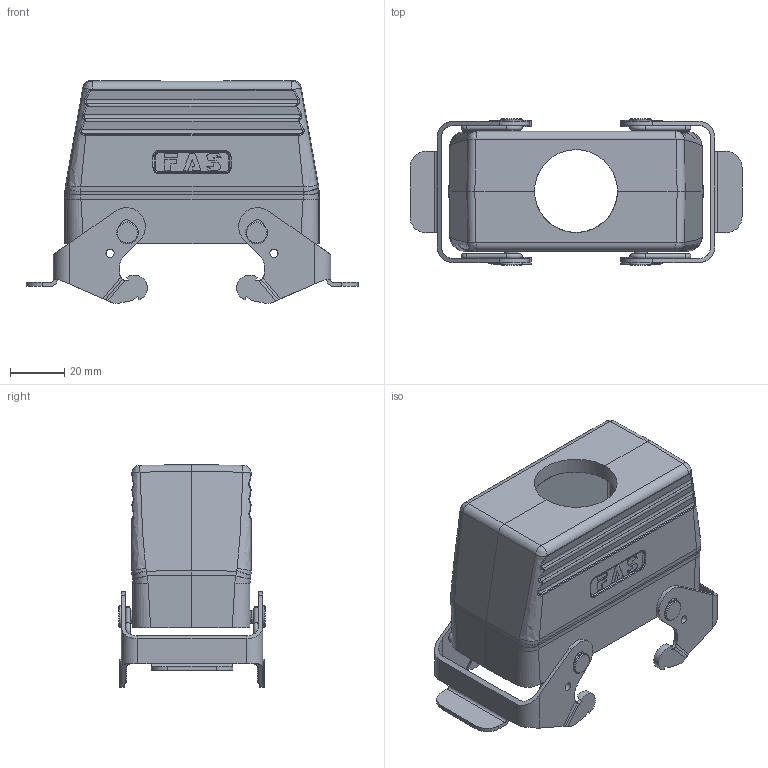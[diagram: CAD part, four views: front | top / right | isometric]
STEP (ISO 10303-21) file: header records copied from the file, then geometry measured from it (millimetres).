
FILE_DESCRIPTION (( 'STEP AP203' ), '1' );
FILE_NAME ('H16B-TGB-M32.STEP', '2023-06-07T09:04:03', ( '' ), ( '' ), 'SwSTEP 2.0', 'SolidWorks 2016', '' );
FILE_SCHEMA (( 'CONFIG_CONTROL_DESIGN' ));
Length unit declared in the file: millimetre
Products named in the file (1): H16B-TGB-M32
Bounding box: 122.1 x 54 x 81.99 mm (x, y, z)
Volume: 78853.5 mm3; surface area: 46431.3 mm2
Topology: 1 solids, 1 shells, 718 faces, 1859 edges, 1168 vertices
Faces by surface type: plane 273, cylinder 241, bspline 128, torus 44, cone 28, sphere 4
Full cylindrical faces by diameter (mm): 1.8 x10, 2.95 x4, 3 x8, 4 x4, 4.8 x4, 8 x4, 30.5 x1
Entity records: 30211 total; most frequent: CARTESIAN_POINT 14599, ORIENTED_EDGE 3448, DIRECTION 2794, EDGE_CURVE 1724, VERTEX_POINT 1118, AXIS2_PLACEMENT_3D 1002, EDGE_LOOP 858, VECTOR 790
